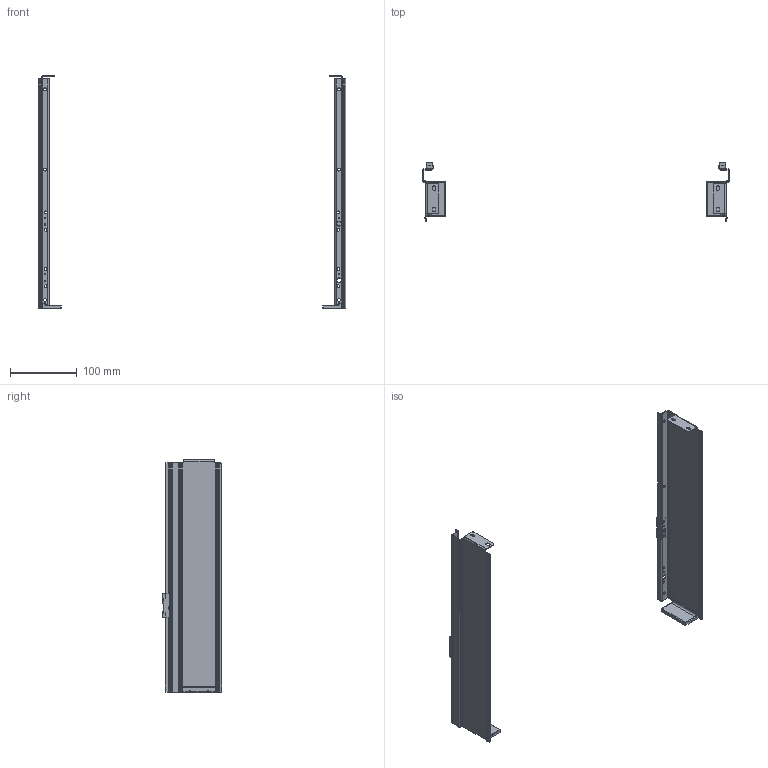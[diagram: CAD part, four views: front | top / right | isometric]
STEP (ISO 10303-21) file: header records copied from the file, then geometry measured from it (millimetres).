
FILE_DESCRIPTION(/* description */ (''),/* implementation_level */ '2;1');
FILE_NAME(/* name */ 'C:\Users\dmitruk\Documents\WORK\\X2\041D0410041F042004100412041B042F042E042904180415\X0\\ULTRA SLIM\\X2\0411043E043A043E04320438043D043A0438\X0\ Q-Type\Боковинки Q-Type-350 низкий.stp',/* time_stamp */ '2022-07-28T10:08:56+03:00',/* author */ ('dmitruk'),/* organization */ (''),/* preprocessor_version */ 'ST-DEVELOPER v16.5',/* originating_system */ 'Autodesk Inventor 2017',/* authorisation */ '');
FILE_SCHEMA (('AUTOMOTIVE_DESIGN { 1 0 10303 214 3 1 1 }'));
Length unit declared in the file: millimetre
Products named in the file (3): Боковинки Q-Type; Боковина USLIM; Боковина USLIM L
Assembly tree (2 placements, depth 2):
  Боковинки Q-Type
    Боковина USLIM
    Боковина USLIM L
Bounding box: 459.6 x 88.4 x 348 mm (x, y, z)
Volume: 115775.3 mm3; surface area: 164637.3 mm2
Topology: 8 solids, 8 shells, 472 faces, 1304 edges, 852 vertices
Faces by surface type: plane 206, cylinder 194, torus 36, bspline 28, sphere 8
Full cylindrical faces by diameter (mm): 2 x6, 4.2 x18, 6 x2, 7 x2, 8 x4
Entity records: 15912 total; most frequent: CARTESIAN_POINT 3106, DIRECTION 2654, ORIENTED_EDGE 2500, EDGE_CURVE 1250, AXIS2_PLACEMENT_3D 963, VERTEX_POINT 830, LINE 728, VECTOR 728
